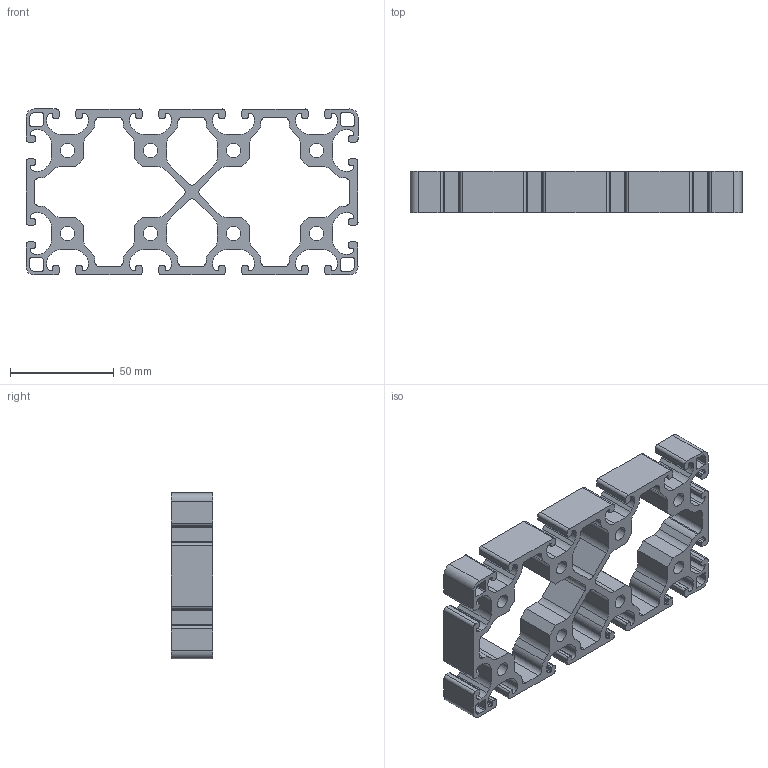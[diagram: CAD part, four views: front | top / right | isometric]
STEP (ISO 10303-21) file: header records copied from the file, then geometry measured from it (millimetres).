
FILE_DESCRIPTION(('STEP AP214'),'1');
FILE_NAME('cctmp_94303907-3A2F-4BED-94C0-C747ADA584A7_2023_04_28_14_48_35_0593_47316..stp','2023-04-28T12:48:35',('item Industrietechnik GmbH'),('CADClick - www.CADClick.com'),'Spatial InterOp 3D',' ','unknown authorization');
FILE_SCHEMA(('AUTOMOTIVE_DESIGN'));
Length unit declared in the file: millimetre
Products named in the file (2): item_0041118_Profile 8 160x80 light_L=20; item_0041118_Profile 8 160x80 light_L=20_1
Assembly tree (1 placements, depth 2):
  item_0041118_Profile 8 160x80 light_L=20
    item_0041118_Profile 8 160x80 light_L=20_1
Bounding box: 160 x 20 x 80 mm (x, y, z)
Volume: 76135.6 mm3; surface area: 46986 mm2
Topology: 1 solids, 1 shells, 530 faces, 1584 edges, 1056 vertices
Faces by surface type: plane 266, cylinder 264
Entity records: 22331 total; most frequent: DIRECTION 3176, CARTESIAN_POINT 3172, ORIENTED_EDGE 3168, EDGE_CURVE 1584, AXIS2_PLACEMENT_3D 1060, VERTEX_POINT 1056, LINE 1056, VECTOR 1056
